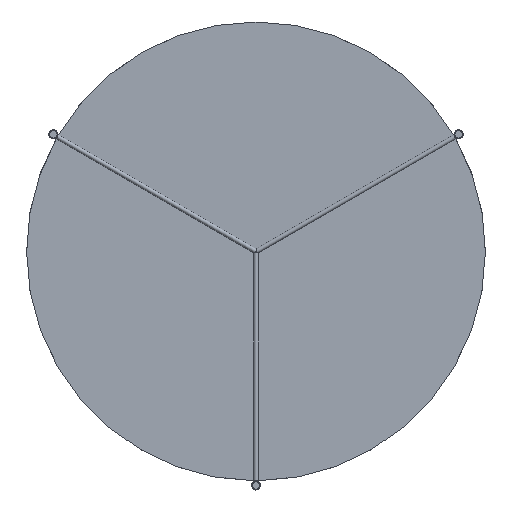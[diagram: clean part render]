
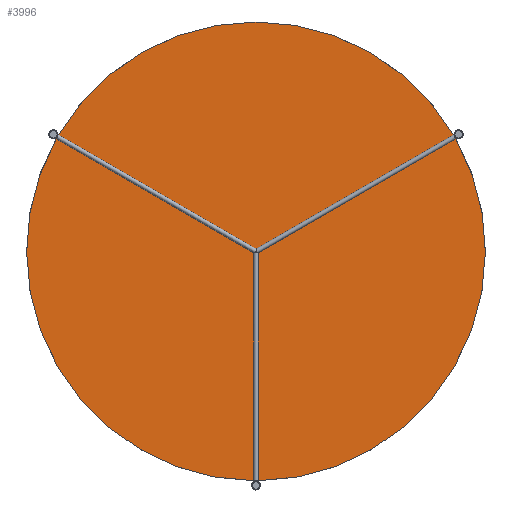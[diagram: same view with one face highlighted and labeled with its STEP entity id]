
A CAD part, front view. The second image highlights one B-rep face of the part: STEP entity #3996.
In plain terms, the highlighted planar face has unit normal (0, -1, 0).
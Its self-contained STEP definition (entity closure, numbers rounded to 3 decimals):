
#54 = EDGE_CURVE ( 'NONE', #4519, #2793, #2325, .T. ) ;
#57 = VERTEX_POINT ( 'NONE', #1905 ) ;
#69 = ORIENTED_EDGE ( 'NONE', *, *, #777, .T. ) ;
#84 = CARTESIAN_POINT ( 'NONE',  ( -435.982, 251., 244.786 ) ) ;
#199 = FACE_OUTER_BOUND ( 'NONE', #3321, .T. ) ;
#214 = DIRECTION ( 'NONE',  ( 0., 0., -1. ) ) ;
#236 = CIRCLE ( 'NONE', #2675, 10. ) ;
#238 = CIRCLE ( 'NONE', #4218, 500. ) ;
#314 = ORIENTED_EDGE ( 'NONE', *, *, #435, .T. ) ;
#318 = EDGE_CURVE ( 'NONE', #4003, #3803, #2730, .T. ) ;
#347 = CARTESIAN_POINT ( 'NONE',  ( 431.805, 251., 256.231 ) ) ;
#400 = EDGE_CURVE ( 'NONE', #985, #3610, #2905, .T. ) ;
#412 = DIRECTION ( 'NONE',  ( 0., 1., 0. ) ) ;
#435 = EDGE_CURVE ( 'NONE', #3013, #4003, #3987, .T. ) ;
#442 = CARTESIAN_POINT ( 'NONE',  ( 429.982, 251., 255.178 ) ) ;
#445 = DIRECTION ( 'NONE',  ( 0., 0., -1. ) ) ;
#446 = VERTEX_POINT ( 'NONE', #2928 ) ;
#490 = DIRECTION ( 'NONE',  ( 0., -1., 0. ) ) ;
#511 = ORIENTED_EDGE ( 'NONE', *, *, #2900, .T. ) ;
#519 = VECTOR ( 'NONE', #2074, 1000. ) ;
#564 = CARTESIAN_POINT ( 'NONE',  ( -438.734, 251., 260.231 ) ) ;
#777 = EDGE_CURVE ( 'NONE', #2793, #985, #2424, .T. ) ;
#839 = ORIENTED_EDGE ( 'NONE', *, *, #3781, .T. ) ;
#864 = AXIS2_PLACEMENT_3D ( 'NONE', #1838, #412, #3271 ) ;
#887 = DIRECTION ( 'NONE',  ( 0., -1., 0. ) ) ;
#935 = DIRECTION ( 'NONE',  ( 0., 0., -1. ) ) ;
#946 = CIRCLE ( 'NONE', #864, 10. ) ;
#976 = CARTESIAN_POINT ( 'NONE',  ( -6., 251., -510.07 ) ) ;
#985 = VERTEX_POINT ( 'NONE', #1615 ) ;
#987 = AXIS2_PLACEMENT_3D ( 'NONE', #3391, #4088, #214 ) ;
#1197 = CIRCLE ( 'NONE', #4290, 500. ) ;
#1288 = VERTEX_POINT ( 'NONE', #2893 ) ;
#1380 = CARTESIAN_POINT ( 'NONE',  ( 444.734, 251., 249.839 ) ) ;
#1456 = CARTESIAN_POINT ( 'NONE',  ( 441.734, 251., 255.035 ) ) ;
#1462 = EDGE_CURVE ( 'NONE', #1848, #446, #946, .T. ) ;
#1567 = PLANE ( 'NONE',  #987 ) ;
#1594 = DIRECTION ( 'NONE',  ( 0., -1., 0. ) ) ;
#1611 = ORIENTED_EDGE ( 'NONE', *, *, #3336, .T. ) ;
#1615 = CARTESIAN_POINT ( 'NONE',  ( -437.805, 251., 245.839 ) ) ;
#1620 = LINE ( 'NONE', #976, #2751 ) ;
#1729 = DIRECTION ( 'NONE',  ( 0., 0., -1. ) ) ;
#1838 = CARTESIAN_POINT ( 'NONE',  ( 0., 251., -510.07 ) ) ;
#1848 = VERTEX_POINT ( 'NONE', #2533 ) ;
#1891 = CARTESIAN_POINT ( 'NONE',  ( -431.805, 251., 256.231 ) ) ;
#1905 = CARTESIAN_POINT ( 'NONE',  ( 6., 251., -499.964 ) ) ;
#1968 = CARTESIAN_POINT ( 'NONE',  ( 429.982, 251., 255.178 ) ) ;
#1974 = DIRECTION ( 'NONE',  ( 0., 0., -1. ) ) ;
#1997 = DIRECTION ( 'NONE',  ( -0.866, 0., 0.5 ) ) ;
#2019 = CARTESIAN_POINT ( 'NONE',  ( -429.982, 251., 255.178 ) ) ;
#2074 = DIRECTION ( 'NONE',  ( 0.866, 0., 0.5 ) ) ;
#2153 = CIRCLE ( 'NONE', #4065, 500. ) ;
#2225 = VERTEX_POINT ( 'NONE', #4427 ) ;
#2235 = ORIENTED_EDGE ( 'NONE', *, *, #2548, .T. ) ;
#2248 = LINE ( 'NONE', #4023, #3265 ) ;
#2283 = CARTESIAN_POINT ( 'NONE',  ( 437.805, 251., 245.839 ) ) ;
#2325 = LINE ( 'NONE', #564, #3466 ) ;
#2406 = LINE ( 'NONE', #1380, #519 ) ;
#2424 = CIRCLE ( 'NONE', #4267, 10. ) ;
#2426 = DIRECTION ( 'NONE',  ( 0., 1., 0. ) ) ;
#2533 = CARTESIAN_POINT ( 'NONE',  ( -6., 251., -502.07 ) ) ;
#2548 = EDGE_CURVE ( 'NONE', #3803, #4519, #2153, .T. ) ;
#2590 = ORIENTED_EDGE ( 'NONE', *, *, #4191, .T. ) ;
#2675 = AXIS2_PLACEMENT_3D ( 'NONE', #1456, #3188, #445 ) ;
#2730 = CIRCLE ( 'NONE', #3327, 500. ) ;
#2735 = CARTESIAN_POINT ( 'NONE',  ( 0., 251., 500. ) ) ;
#2751 = VECTOR ( 'NONE', #935, 1000. ) ;
#2793 = VERTEX_POINT ( 'NONE', #1891 ) ;
#2806 = CARTESIAN_POINT ( 'NONE',  ( -441.734, 251., 255.035 ) ) ;
#2874 = VECTOR ( 'NONE', #3692, 1000. ) ;
#2893 = CARTESIAN_POINT ( 'NONE',  ( -6., 251., -499.964 ) ) ;
#2900 = EDGE_CURVE ( 'NONE', #2225, #3602, #2406, .T. ) ;
#2905 = LINE ( 'NONE', #84, #2874 ) ;
#2928 = CARTESIAN_POINT ( 'NONE',  ( 6., 251., -502.07 ) ) ;
#2930 = CARTESIAN_POINT ( 'NONE',  ( 0., 251., 0. ) ) ;
#2951 = DIRECTION ( 'NONE',  ( -0.866, 0., -0.5 ) ) ;
#3013 = VERTEX_POINT ( 'NONE', #347 ) ;
#3155 = DIRECTION ( 'NONE',  ( 0., 0., -1. ) ) ;
#3188 = DIRECTION ( 'NONE',  ( 0., 1., 0. ) ) ;
#3265 = VECTOR ( 'NONE', #4319, 1000. ) ;
#3271 = DIRECTION ( 'NONE',  ( 0., 0., -1. ) ) ;
#3321 = EDGE_LOOP ( 'NONE', ( #3909, #69, #3886, #2590, #3680, #3727, #1611, #839, #511, #3853, #314, #3427, #2235 ) ) ;
#3327 = AXIS2_PLACEMENT_3D ( 'NONE', #4185, #4164, #1729 ) ;
#3336 = EDGE_CURVE ( 'NONE', #446, #57, #2248, .T. ) ;
#3391 = CARTESIAN_POINT ( 'NONE',  ( 0., 251., 0. ) ) ;
#3427 = ORIENTED_EDGE ( 'NONE', *, *, #318, .T. ) ;
#3463 = CARTESIAN_POINT ( 'NONE',  ( -435.982, 251., 244.786 ) ) ;
#3466 = VECTOR ( 'NONE', #1997, 1000. ) ;
#3602 = VERTEX_POINT ( 'NONE', #2283 ) ;
#3610 = VERTEX_POINT ( 'NONE', #3463 ) ;
#3680 = ORIENTED_EDGE ( 'NONE', *, *, #4182, .T. ) ;
#3692 = DIRECTION ( 'NONE',  ( 0.866, 0., -0.5 ) ) ;
#3727 = ORIENTED_EDGE ( 'NONE', *, *, #1462, .T. ) ;
#3731 = EDGE_CURVE ( 'NONE', #3602, #3013, #236, .T. ) ;
#3781 = EDGE_CURVE ( 'NONE', #57, #2225, #1197, .T. ) ;
#3803 = VERTEX_POINT ( 'NONE', #2735 ) ;
#3822 = DIRECTION ( 'NONE',  ( 0., 0., -1. ) ) ;
#3853 = ORIENTED_EDGE ( 'NONE', *, *, #3731, .T. ) ;
#3886 = ORIENTED_EDGE ( 'NONE', *, *, #400, .T. ) ;
#3909 = ORIENTED_EDGE ( 'NONE', *, *, #54, .T. ) ;
#3987 = LINE ( 'NONE', #442, #4052 ) ;
#3996 = ADVANCED_FACE ( 'NONE', ( #199 ), #1567, .T. ) ;
#4003 = VERTEX_POINT ( 'NONE', #1968 ) ;
#4023 = CARTESIAN_POINT ( 'NONE',  ( 6., 251., -499.964 ) ) ;
#4052 = VECTOR ( 'NONE', #2951, 1000. ) ;
#4065 = AXIS2_PLACEMENT_3D ( 'NONE', #4435, #1594, #3822 ) ;
#4088 = DIRECTION ( 'NONE',  ( 0., -1., 0. ) ) ;
#4164 = DIRECTION ( 'NONE',  ( 0., -1., 0. ) ) ;
#4182 = EDGE_CURVE ( 'NONE', #1288, #1848, #1620, .T. ) ;
#4185 = CARTESIAN_POINT ( 'NONE',  ( 0., 251., 0. ) ) ;
#4191 = EDGE_CURVE ( 'NONE', #3610, #1288, #238, .T. ) ;
#4218 = AXIS2_PLACEMENT_3D ( 'NONE', #4485, #887, #1974 ) ;
#4267 = AXIS2_PLACEMENT_3D ( 'NONE', #2806, #2426, #3155 ) ;
#4290 = AXIS2_PLACEMENT_3D ( 'NONE', #2930, #490, #4329 ) ;
#4319 = DIRECTION ( 'NONE',  ( 0., 0., 1. ) ) ;
#4329 = DIRECTION ( 'NONE',  ( 0., 0., -1. ) ) ;
#4427 = CARTESIAN_POINT ( 'NONE',  ( 435.982, 251., 244.786 ) ) ;
#4435 = CARTESIAN_POINT ( 'NONE',  ( 0., 251., 0. ) ) ;
#4485 = CARTESIAN_POINT ( 'NONE',  ( 0., 251., 0. ) ) ;
#4519 = VERTEX_POINT ( 'NONE', #2019 ) ;
